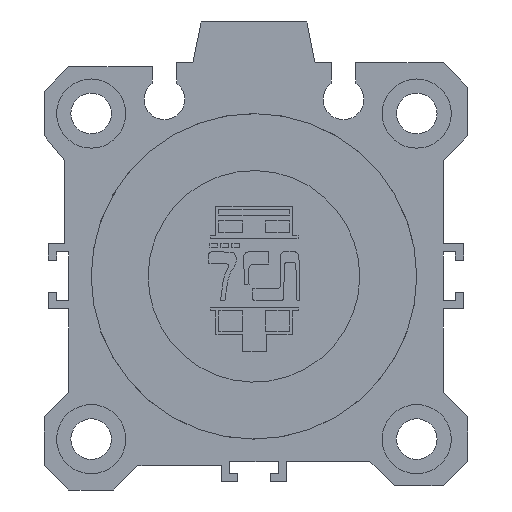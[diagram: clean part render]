
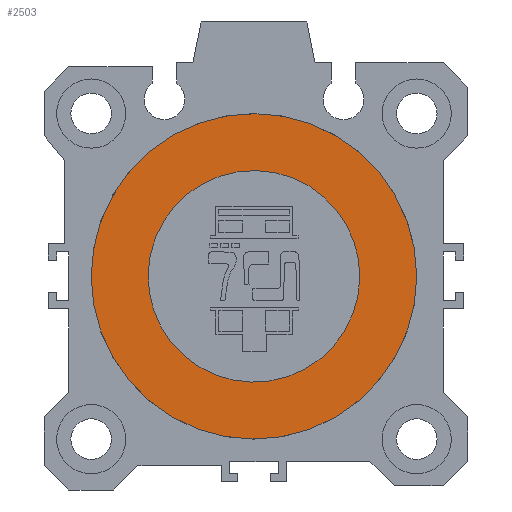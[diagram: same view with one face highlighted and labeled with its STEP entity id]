
A CAD part, left-side view. The second image highlights one B-rep face of the part: STEP entity #2503.
In plain terms, the highlighted planar face has unit normal (-1, 0, 0).
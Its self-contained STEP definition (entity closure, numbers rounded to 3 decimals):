
#1523=CARTESIAN_POINT('Axis2P3D Location',(3.5,0.,0.)) ;
#1527=CARTESIAN_POINT('Vertex',(3.5,-9.589,-17.552)) ;
#1529=CARTESIAN_POINT('Vertex',(3.5,-20.,0.)) ;
#1532=CARTESIAN_POINT('Axis2P3D Location',(3.5,0.,0.)) ;
#1536=CARTESIAN_POINT('Vertex',(3.5,20.,0.)) ;
#1557=CARTESIAN_POINT('Axis2P3D Location',(3.5,0.,0.)) ;
#1561=CARTESIAN_POINT('Vertex',(3.5,9.589,17.552)) ;
#1564=CARTESIAN_POINT('Axis2P3D Location',(3.5,0.,0.)) ;
#2216=CARTESIAN_POINT('Vertex',(3.5,-6.233,-11.409)) ;
#2232=CARTESIAN_POINT('Vertex',(3.5,6.233,11.409)) ;
#2235=CARTESIAN_POINT('Axis2P3D Location',(3.5,0.,0.)) ;
#2252=CARTESIAN_POINT('Axis2P3D Location',(3.5,0.,0.)) ;
#2488=CARTESIAN_POINT('Axis2P3D Location',(3.5,0.,-20.)) ;
#1524=DIRECTION('Axis2P3D Direction',(1.,0.,0.)) ;
#1533=DIRECTION('Axis2P3D Direction',(1.,0.,0.)) ;
#1558=DIRECTION('Axis2P3D Direction',(1.,0.,0.)) ;
#1565=DIRECTION('Axis2P3D Direction',(1.,0.,0.)) ;
#2236=DIRECTION('Axis2P3D Direction',(-1.,0.,0.)) ;
#2253=DIRECTION('Axis2P3D Direction',(-1.,0.,0.)) ;
#2489=DIRECTION('Axis2P3D Direction',(-1.,0.,0.)) ;
#2490=DIRECTION('Axis2P3D XDirection',(0.,1.,0.)) ;
#1525=AXIS2_PLACEMENT_3D('Circle Axis2P3D',#1523,#1524,$) ;
#1534=AXIS2_PLACEMENT_3D('Circle Axis2P3D',#1532,#1533,$) ;
#1559=AXIS2_PLACEMENT_3D('Circle Axis2P3D',#1557,#1558,$) ;
#1566=AXIS2_PLACEMENT_3D('Circle Axis2P3D',#1564,#1565,$) ;
#2237=AXIS2_PLACEMENT_3D('Circle Axis2P3D',#2235,#2236,$) ;
#2254=AXIS2_PLACEMENT_3D('Circle Axis2P3D',#2252,#2253,$) ;
#2491=AXIS2_PLACEMENT_3D('Plane Axis2P3D',#2488,#2489,#2490) ;
#2494=ORIENTED_EDGE('',*,*,#1568,.T.) ;
#2495=ORIENTED_EDGE('',*,*,#1538,.T.) ;
#2496=ORIENTED_EDGE('',*,*,#1531,.T.) ;
#2497=ORIENTED_EDGE('',*,*,#1563,.T.) ;
#2500=ORIENTED_EDGE('',*,*,#2256,.F.) ;
#2501=ORIENTED_EDGE('',*,*,#2239,.F.) ;
#2502=FACE_BOUND('',#2499,.T.) ;
#2503=ADVANCED_FACE('PartBody',(#2498,#2502),#2492,.T.) ;
#1526=CIRCLE('generated circle',#1525,20.) ;
#1535=CIRCLE('generated circle',#1534,20.) ;
#1560=CIRCLE('generated circle',#1559,20.) ;
#1567=CIRCLE('generated circle',#1566,20.) ;
#2238=CIRCLE('generated circle',#2237,13.) ;
#2255=CIRCLE('generated circle',#2254,13.) ;
#1531=EDGE_CURVE('',#1528,#1530,#1526,.F.) ;
#1538=EDGE_CURVE('',#1537,#1528,#1535,.F.) ;
#1563=EDGE_CURVE('',#1530,#1562,#1560,.F.) ;
#1568=EDGE_CURVE('',#1562,#1537,#1567,.F.) ;
#2239=EDGE_CURVE('',#2233,#2217,#2238,.T.) ;
#2256=EDGE_CURVE('',#2217,#2233,#2255,.T.) ;
#2493=EDGE_LOOP('',(#2494,#2495,#2496,#2497)) ;
#2499=EDGE_LOOP('',(#2500,#2501)) ;
#2498=FACE_OUTER_BOUND('',#2493,.T.) ;
#2492=PLANE('',#2491) ;
#1528=VERTEX_POINT('',#1527) ;
#1530=VERTEX_POINT('',#1529) ;
#1537=VERTEX_POINT('',#1536) ;
#1562=VERTEX_POINT('',#1561) ;
#2217=VERTEX_POINT('',#2216) ;
#2233=VERTEX_POINT('',#2232) ;
